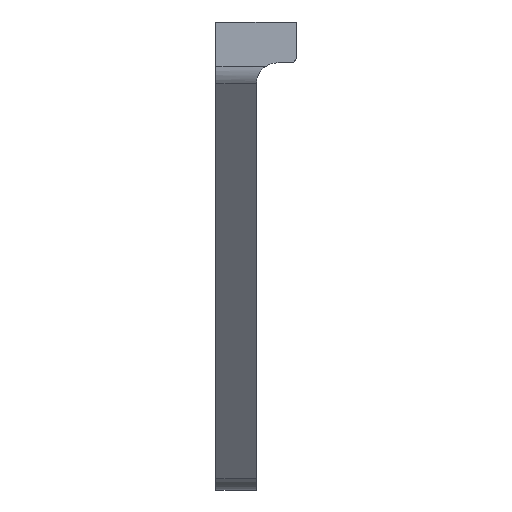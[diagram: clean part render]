
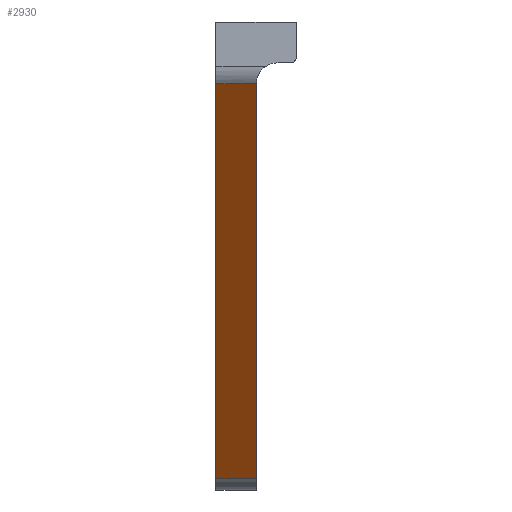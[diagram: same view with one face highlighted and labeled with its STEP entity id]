
A CAD part, left-side view. The second image highlights one B-rep face of the part: STEP entity #2930.
In plain terms, the highlighted planar face has unit normal (-0.794, 0, -0.608).
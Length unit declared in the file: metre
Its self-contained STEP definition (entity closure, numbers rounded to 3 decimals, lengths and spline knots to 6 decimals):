
#10=ELLIPSE('',#3230,0.009131,0.00725);
#814=ORIENTED_EDGE('',*,*,#1416,.T.);
#815=ORIENTED_EDGE('',*,*,#1112,.T.);
#816=ORIENTED_EDGE('',*,*,#1417,.T.);
#817=ORIENTED_EDGE('',*,*,#1418,.T.);
#818=ORIENTED_EDGE('',*,*,#1227,.T.);
#1112=EDGE_CURVE('',#1536,#1535,#1824,.T.);
#1227=EDGE_CURVE('',#1645,#1644,#1887,.T.);
#1416=EDGE_CURVE('',#1644,#1536,#2022,.F.);
#1417=EDGE_CURVE('',#1535,#1750,#10,.T.);
#1418=EDGE_CURVE('',#1750,#1645,#2023,.F.);
#1535=VERTEX_POINT('',#4262);
#1536=VERTEX_POINT('',#4264);
#1644=VERTEX_POINT('',#4487);
#1645=VERTEX_POINT('',#4489);
#1750=VERTEX_POINT('',#4869);
#1824=LINE('',#4263,#2130);
#1887=LINE('',#4488,#2193);
#2022=LINE('',#4867,#2328);
#2023=LINE('',#4870,#2329);
#2130=VECTOR('',#3386,1.);
#2193=VECTOR('',#3555,1.);
#2328=VECTOR('',#3954,1.);
#2329=VECTOR('',#3957,1.);
#2514=EDGE_LOOP('',(#814,#815,#816,#817,#818));
#2690=FACE_BOUND('',#2514,.T.);
#2802=PLANE('',#3229);
#2930=ADVANCED_FACE('',(#2690),#2802,.F.);
#3229=AXIS2_PLACEMENT_3D('',#4866,#3952,#3953);
#3230=AXIS2_PLACEMENT_3D('',#4868,#3955,#3956);
#3386=DIRECTION('',(-0.608,0.,0.794));
#3555=DIRECTION('',(0.608,0.,-0.794));
#3952=DIRECTION('',(0.794,0.,0.608));
#3953=DIRECTION('',(0.608,0.,-0.794));
#3954=DIRECTION('',(0.,1.,0.));
#3955=DIRECTION('',(0.794,0.,0.608));
#3956=DIRECTION('',(-0.608,0.,0.794));
#3957=DIRECTION('',(0.,-1.,0.));
#4262=CARTESIAN_POINT('',(-0.144684,0.019,0.130302));
#4263=CARTESIAN_POINT('',(-0.092,0.019,0.0615));
#4264=CARTESIAN_POINT('',(-0.037955,0.019,-0.00908));
#4487=CARTESIAN_POINT('',(-0.037955,0.033284,-0.00908));
#4488=CARTESIAN_POINT('',(-0.092,0.033284,0.0615));
#4489=CARTESIAN_POINT('',(-0.14469,0.033284,0.130309));
#4866=CARTESIAN_POINT('',(-0.092,0.033286,0.0615));
#4867=CARTESIAN_POINT('',(-0.037955,0.033286,-0.00908));
#4868=CARTESIAN_POINT('',(-0.144684,0.01175,0.130302));
#4869=CARTESIAN_POINT('',(-0.14469,0.019,0.130309));
#4870=CARTESIAN_POINT('',(-0.14469,0.033286,0.130309));
